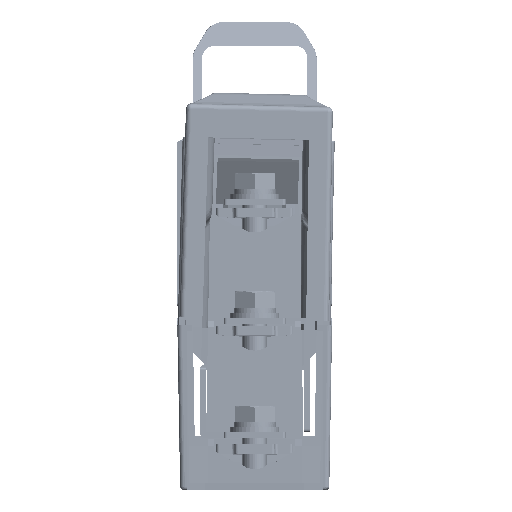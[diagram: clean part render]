
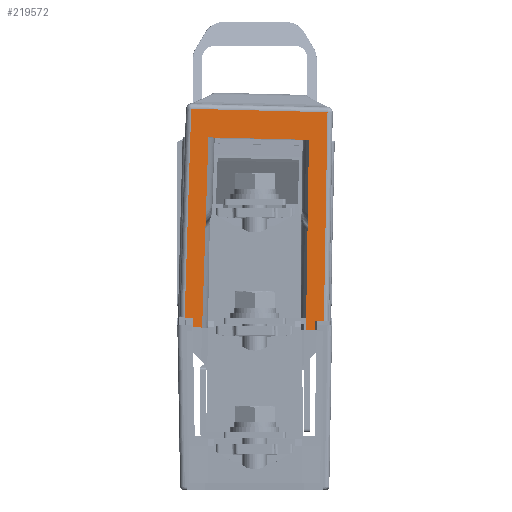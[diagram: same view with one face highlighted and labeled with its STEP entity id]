
A CAD part, front view. The second image highlights one B-rep face of the part: STEP entity #219572.
In plain terms, the highlighted planar face has unit normal (0, -1, 0.017) as drawn and (1, 0.017, 0) by its records, which use the part's own axes.
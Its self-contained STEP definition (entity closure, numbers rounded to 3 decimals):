
#167 = ORIENTED_EDGE ( 'NONE', *, *, #1357, .F. ) ;
#560 = CARTESIAN_POINT ( 'NONE',  ( 668.953, 14.387, -5.849 ) ) ;
#1357 = EDGE_CURVE ( 'NONE', #58887, #120679, #205915, .T. ) ;
#1394 = EDGE_CURVE ( 'NONE', #144338, #46890, #186463, .T. ) ;
#1656 = VECTOR ( 'NONE', #247488, 1000. ) ;
#4951 = VECTOR ( 'NONE', #139588, 1000. ) ;
#6243 = ORIENTED_EDGE ( 'NONE', *, *, #202366, .F. ) ;
#8044 = DIRECTION ( 'NONE',  ( -0.017, 1., 0. ) ) ;
#9389 = CARTESIAN_POINT ( 'NONE',  ( 667.681, 87.287, -1.849 ) ) ;
#10706 = CARTESIAN_POINT ( 'NONE',  ( 667.934, 72.787, -41.799 ) ) ;
#14047 = ORIENTED_EDGE ( 'NONE', *, *, #139902, .T. ) ;
#15733 = EDGE_CURVE ( 'NONE', #117938, #136015, #163797, .T. ) ;
#16308 = VERTEX_POINT ( 'NONE', #136836 ) ;
#19702 = CARTESIAN_POINT ( 'NONE',  ( 667.775, 81.872, -47.587 ) ) ;
#20028 = DIRECTION ( 'NONE',  ( 0.017, -1., -0.009 ) ) ;
#21782 = EDGE_CURVE ( 'NONE', #47307, #127092, #181221, .T. ) ;
#29544 = VECTOR ( 'NONE', #58941, 1000. ) ;
#36049 = CARTESIAN_POINT ( 'NONE',  ( 667.934, 72.787, -9.299 ) ) ;
#39754 = DIRECTION ( 'NONE',  ( -0.017, 1., -0.007 ) ) ;
#43488 = DIRECTION ( 'NONE',  ( 0.017, -1., 0. ) ) ;
#44475 = LINE ( 'NONE', #127789, #223501 ) ;
#44725 = EDGE_CURVE ( 'NONE', #54548, #127092, #272969, .T. ) ;
#46890 = VERTEX_POINT ( 'NONE', #10706 ) ;
#47307 = VERTEX_POINT ( 'NONE', #94985 ) ;
#49074 = EDGE_CURVE ( 'NONE', #144338, #93503, #125502, .T. ) ;
#51157 = CARTESIAN_POINT ( 'NONE',  ( 667.775, 81.872, -3.511 ) ) ;
#53180 = VECTOR ( 'NONE', #43488, 1000. ) ;
#54548 = VERTEX_POINT ( 'NONE', #145701 ) ;
#54847 = CARTESIAN_POINT ( 'NONE',  ( 667.775, 81.872, -47.587 ) ) ;
#54912 = CARTESIAN_POINT ( 'NONE',  ( 669.007, 11.287, -45.249 ) ) ;
#55133 = EDGE_CURVE ( 'NONE', #208014, #16308, #83603, .T. ) ;
#58718 = DIRECTION ( 'NONE',  ( -0.017, 1., 0.009 ) ) ;
#58887 = VERTEX_POINT ( 'NONE', #180333 ) ;
#58941 = DIRECTION ( 'NONE',  ( 0., 0., 1. ) ) ;
#64288 = ORIENTED_EDGE ( 'NONE', *, *, #21782, .T. ) ;
#66531 = VERTEX_POINT ( 'NONE', #132020 ) ;
#69150 = PLANE ( 'NONE',  #261367 ) ;
#69699 = ORIENTED_EDGE ( 'NONE', *, *, #199793, .T. ) ;
#70496 = FACE_OUTER_BOUND ( 'NONE', #167975, .T. ) ;
#79523 = CARTESIAN_POINT ( 'NONE',  ( 668.953, 14.387, -42.309 ) ) ;
#83603 = LINE ( 'NONE', #126643, #1656 ) ;
#87294 = ORIENTED_EDGE ( 'NONE', *, *, #234375, .T. ) ;
#90278 = DIRECTION ( 'NONE',  ( 0., 0., 1. ) ) ;
#93503 = VERTEX_POINT ( 'NONE', #225782 ) ;
#94985 = CARTESIAN_POINT ( 'NONE',  ( 667.775, 81.872, -47.587 ) ) ;
#95181 = LINE ( 'NONE', #54912, #4951 ) ;
#97204 = DIRECTION ( 'NONE',  ( 0.017, -1., 0.009 ) ) ;
#102556 = VECTOR ( 'NONE', #39754, 1000. ) ;
#103514 = ORIENTED_EDGE ( 'NONE', *, *, #49074, .T. ) ;
#104345 = DIRECTION ( 'NONE',  ( 0.017, -1., -0.007 ) ) ;
#104484 = DIRECTION ( 'NONE',  ( 0., 0., 1. ) ) ;
#104672 = CARTESIAN_POINT ( 'NONE',  ( 668.953, 14.387, -42.309 ) ) ;
#106459 = VECTOR ( 'NONE', #20028, 1000. ) ;
#111600 = DIRECTION ( 'NONE',  ( -0.017, 1., -0.009 ) ) ;
#113858 = ORIENTED_EDGE ( 'NONE', *, *, #55133, .F. ) ;
#114533 = VECTOR ( 'NONE', #104345, 1000. ) ;
#115166 = CARTESIAN_POINT ( 'NONE',  ( 669.007, 11.287, -42.336 ) ) ;
#117424 = VECTOR ( 'NONE', #222053, 1000. ) ;
#117938 = VERTEX_POINT ( 'NONE', #128734 ) ;
#120679 = VERTEX_POINT ( 'NONE', #264196 ) ;
#125007 = VECTOR ( 'NONE', #97204, 1000. ) ;
#125502 = LINE ( 'NONE', #104672, #106459 ) ;
#126496 = CARTESIAN_POINT ( 'NONE',  ( 668.953, 14.387, -42.309 ) ) ;
#126643 = CARTESIAN_POINT ( 'NONE',  ( 669.007, 11.287, -8.762 ) ) ;
#127092 = VERTEX_POINT ( 'NONE', #51157 ) ;
#127789 = CARTESIAN_POINT ( 'NONE',  ( 667.934, 72.787, -41.799 ) ) ;
#127910 = CARTESIAN_POINT ( 'NONE',  ( 669.007, 11.287, -8.762 ) ) ;
#128734 = CARTESIAN_POINT ( 'NONE',  ( 667.934, 72.787, -9.299 ) ) ;
#129197 = VECTOR ( 'NONE', #111600, 1000. ) ;
#132020 = CARTESIAN_POINT ( 'NONE',  ( 668.953, 14.387, -5.849 ) ) ;
#136015 = VERTEX_POINT ( 'NONE', #221038 ) ;
#136836 = CARTESIAN_POINT ( 'NONE',  ( 669.007, 11.287, -5.849 ) ) ;
#139588 = DIRECTION ( 'NONE',  ( -0.017, 1., 0. ) ) ;
#139902 = EDGE_CURVE ( 'NONE', #66531, #16308, #273991, .T. ) ;
#140555 = CARTESIAN_POINT ( 'NONE',  ( 669.007, 11.287, -45.249 ) ) ;
#144338 = VERTEX_POINT ( 'NONE', #126496 ) ;
#145701 = CARTESIAN_POINT ( 'NONE',  ( 668.953, 14.387, -3.04 ) ) ;
#151898 = CARTESIAN_POINT ( 'NONE',  ( 669.007, 11.287, -8.762 ) ) ;
#163797 = LINE ( 'NONE', #36049, #125007 ) ;
#167975 = EDGE_LOOP ( 'NONE', ( #6243, #64288, #173943, #87294, #14047, #113858, #261266, #246586, #221732, #193953, #103514, #69699, #189891, #167 ) ) ;
#170700 = DIRECTION ( 'NONE',  ( 0., 0., -1. ) ) ;
#173943 = ORIENTED_EDGE ( 'NONE', *, *, #44725, .F. ) ;
#179739 = EDGE_CURVE ( 'NONE', #191215, #120679, #95181, .T. ) ;
#180333 = CARTESIAN_POINT ( 'NONE',  ( 668.953, 14.387, -48.058 ) ) ;
#181221 = LINE ( 'NONE', #54847, #29544 ) ;
#186463 = LINE ( 'NONE', #79523, #236420 ) ;
#189891 = ORIENTED_EDGE ( 'NONE', *, *, #179739, .T. ) ;
#191215 = VERTEX_POINT ( 'NONE', #140555 ) ;
#193953 = ORIENTED_EDGE ( 'NONE', *, *, #1394, .F. ) ;
#196119 = EDGE_CURVE ( 'NONE', #46890, #117938, #44475, .T. ) ;
#198533 = LINE ( 'NONE', #115166, #117424 ) ;
#199793 = EDGE_CURVE ( 'NONE', #93503, #191215, #198533, .T. ) ;
#202366 = EDGE_CURVE ( 'NONE', #47307, #58887, #211252, .T. ) ;
#205915 = LINE ( 'NONE', #228085, #249843 ) ;
#206938 = VECTOR ( 'NONE', #170700, 1000. ) ;
#208014 = VERTEX_POINT ( 'NONE', #127910 ) ;
#210978 = CARTESIAN_POINT ( 'NONE',  ( 668.953, 14.387, -3.04 ) ) ;
#211252 = LINE ( 'NONE', #19702, #114533 ) ;
#214907 = DIRECTION ( 'NONE',  ( -1., -0.017, 0. ) ) ;
#219572 = ADVANCED_FACE ( 'NONE', ( #70496 ), #69150, .F. ) ;
#221038 = CARTESIAN_POINT ( 'NONE',  ( 668.953, 14.387, -8.789 ) ) ;
#221732 = ORIENTED_EDGE ( 'NONE', *, *, #196119, .F. ) ;
#222053 = DIRECTION ( 'NONE',  ( 0., 0., -1. ) ) ;
#223501 = VECTOR ( 'NONE', #90278, 1000. ) ;
#225782 = CARTESIAN_POINT ( 'NONE',  ( 669.007, 11.287, -42.336 ) ) ;
#228085 = CARTESIAN_POINT ( 'NONE',  ( 668.953, 14.387, -48.058 ) ) ;
#229960 = CARTESIAN_POINT ( 'NONE',  ( 668.953, 14.387, -3.04 ) ) ;
#234375 = EDGE_CURVE ( 'NONE', #54548, #66531, #251251, .T. ) ;
#235202 = LINE ( 'NONE', #151898, #129197 ) ;
#236420 = VECTOR ( 'NONE', #58718, 1000. ) ;
#246586 = ORIENTED_EDGE ( 'NONE', *, *, #15733, .F. ) ;
#247488 = DIRECTION ( 'NONE',  ( 0., 0., 1. ) ) ;
#249843 = VECTOR ( 'NONE', #104484, 1000. ) ;
#251251 = LINE ( 'NONE', #210978, #206938 ) ;
#253379 = EDGE_CURVE ( 'NONE', #208014, #136015, #235202, .T. ) ;
#261266 = ORIENTED_EDGE ( 'NONE', *, *, #253379, .T. ) ;
#261367 = AXIS2_PLACEMENT_3D ( 'NONE', #9389, #214907, #8044 ) ;
#264196 = CARTESIAN_POINT ( 'NONE',  ( 668.953, 14.387, -45.249 ) ) ;
#272969 = LINE ( 'NONE', #229960, #102556 ) ;
#273991 = LINE ( 'NONE', #560, #53180 ) ;
